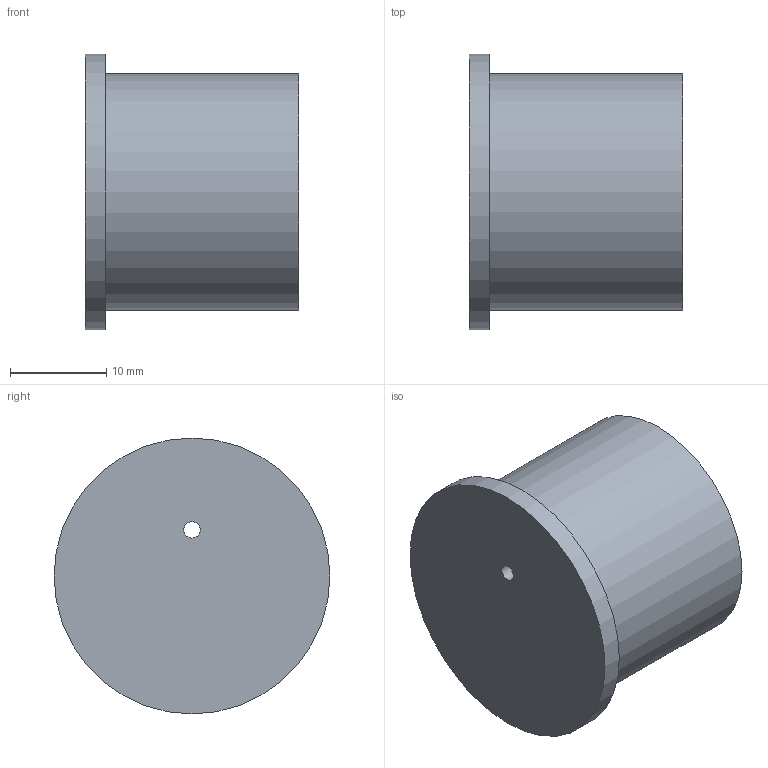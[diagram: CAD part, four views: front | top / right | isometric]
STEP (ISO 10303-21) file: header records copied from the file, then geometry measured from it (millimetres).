
FILE_DESCRIPTION( ('This file contains a STEP AP42 implementation' ,'as created by ZW3D STEP Interface translator.') ,'2;1' );
FILE_NAME( 'OGW-25.stp' ,'26 519. 73619', (''), ('ZWCAD Software Co.'), 'Version 1.0', 'ZW3D to STEP translator', '' );
FILE_SCHEMA(('AP242_MANAGED_MODEL_BASED_3D_ENGINEERING_MIM_LF { 1 0 10303 442 1 1 4 }'));
Length unit declared in the file: millimetre
Products named in the file (1): 0
Bounding box: 22.2 x 28.7 x 28.7 mm (x, y, z)
Volume: 2556.1 mm3; surface area: 4495.6 mm2
Topology: 1 solids, 1 shells, 8 faces, 12 edges, 8 vertices
Faces by surface type: cylinder 4, plane 4
Full cylindrical faces by diameter (mm): 1.7 x1, 23 x1, 24.6 x1, 28.7 x1
Entity records: 216 total; most frequent: DIRECTION 38, CARTESIAN_POINT 29, ORIENTED_EDGE 24, AXIS2_PLACEMENT_3D 17, EDGE_CURVE 12, EDGE_LOOP 12, VERTEX_POINT 8, CIRCLE 8
